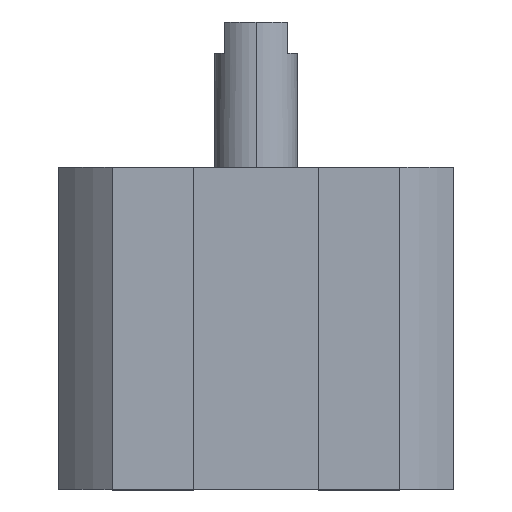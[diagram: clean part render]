
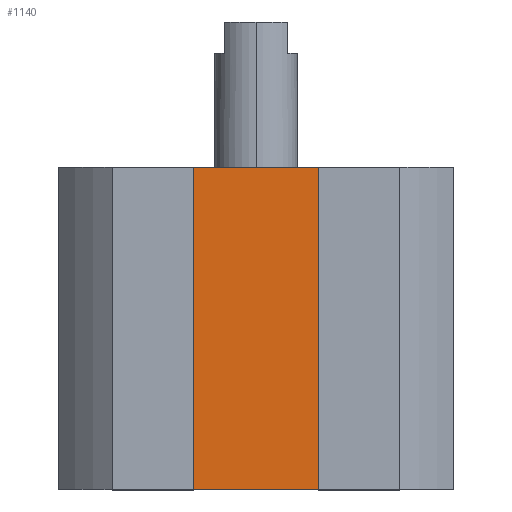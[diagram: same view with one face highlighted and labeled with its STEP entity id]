
A CAD part, top view. The second image highlights one B-rep face of the part: STEP entity #1140.
In plain terms, the highlighted planar face has unit normal (0, 0, 1).
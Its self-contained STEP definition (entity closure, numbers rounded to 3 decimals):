
#111 = VERTEX_POINT ( 'NONE', #313 ) ;
#127 = VERTEX_POINT ( 'NONE', #1135 ) ;
#272 = VECTOR ( 'NONE', #1199, 1000. ) ;
#304 = PLANE ( 'NONE',  #773 ) ;
#310 = DIRECTION ( 'NONE',  ( 0., 1., 0. ) ) ;
#313 = CARTESIAN_POINT ( 'NONE',  ( 7.75, 0., 12.75 ) ) ;
#329 = DIRECTION ( 'NONE',  ( 1., 0., 0. ) ) ;
#340 = VECTOR ( 'NONE', #310, 1000. ) ;
#477 = ORIENTED_EDGE ( 'NONE', *, *, #1689, .F. ) ;
#525 = VECTOR ( 'NONE', #329, 1000. ) ;
#684 = LINE ( 'NONE', #2118, #525 ) ;
#713 = CARTESIAN_POINT ( 'NONE',  ( 7.75, -31., 12.75 ) ) ;
#773 = AXIS2_PLACEMENT_3D ( 'NONE', #1154, #2167, #1569 ) ;
#887 = ORIENTED_EDGE ( 'NONE', *, *, #1114, .T. ) ;
#904 = CARTESIAN_POINT ( 'NONE',  ( -7.75, -31., 12.75 ) ) ;
#959 = LINE ( 'NONE', #713, #2393 ) ;
#1114 = EDGE_CURVE ( 'NONE', #127, #2151, #684, .T. ) ;
#1135 = CARTESIAN_POINT ( 'NONE',  ( -7.75, -31., 12.75 ) ) ;
#1140 = ADVANCED_FACE ( 'NONE', ( #2425 ), #304, .T. ) ;
#1154 = CARTESIAN_POINT ( 'NONE',  ( 0., -31., 12.75 ) ) ;
#1199 = DIRECTION ( 'NONE',  ( 1., 0., 0. ) ) ;
#1373 = EDGE_LOOP ( 'NONE', ( #1410, #477, #887, #1493 ) ) ;
#1410 = ORIENTED_EDGE ( 'NONE', *, *, #2313, .F. ) ;
#1493 = ORIENTED_EDGE ( 'NONE', *, *, #1835, .T. ) ;
#1569 = DIRECTION ( 'NONE',  ( 1., 0., 0. ) ) ;
#1593 = DIRECTION ( 'NONE',  ( 0., 1., 0. ) ) ;
#1689 = EDGE_CURVE ( 'NONE', #127, #2341, #2101, .T. ) ;
#1835 = EDGE_CURVE ( 'NONE', #2151, #111, #959, .T. ) ;
#2031 = LINE ( 'NONE', #2176, #272 ) ;
#2057 = CARTESIAN_POINT ( 'NONE',  ( 7.75, -31., 12.75 ) ) ;
#2101 = LINE ( 'NONE', #904, #340 ) ;
#2118 = CARTESIAN_POINT ( 'NONE',  ( 0., -31., 12.75 ) ) ;
#2151 = VERTEX_POINT ( 'NONE', #2057 ) ;
#2167 = DIRECTION ( 'NONE',  ( 0., 0., 1. ) ) ;
#2176 = CARTESIAN_POINT ( 'NONE',  ( 0., 0., 12.75 ) ) ;
#2313 = EDGE_CURVE ( 'NONE', #2341, #111, #2031, .T. ) ;
#2341 = VERTEX_POINT ( 'NONE', #2622 ) ;
#2393 = VECTOR ( 'NONE', #1593, 1000. ) ;
#2425 = FACE_OUTER_BOUND ( 'NONE', #1373, .T. ) ;
#2622 = CARTESIAN_POINT ( 'NONE',  ( -7.75, 0., 12.75 ) ) ;
